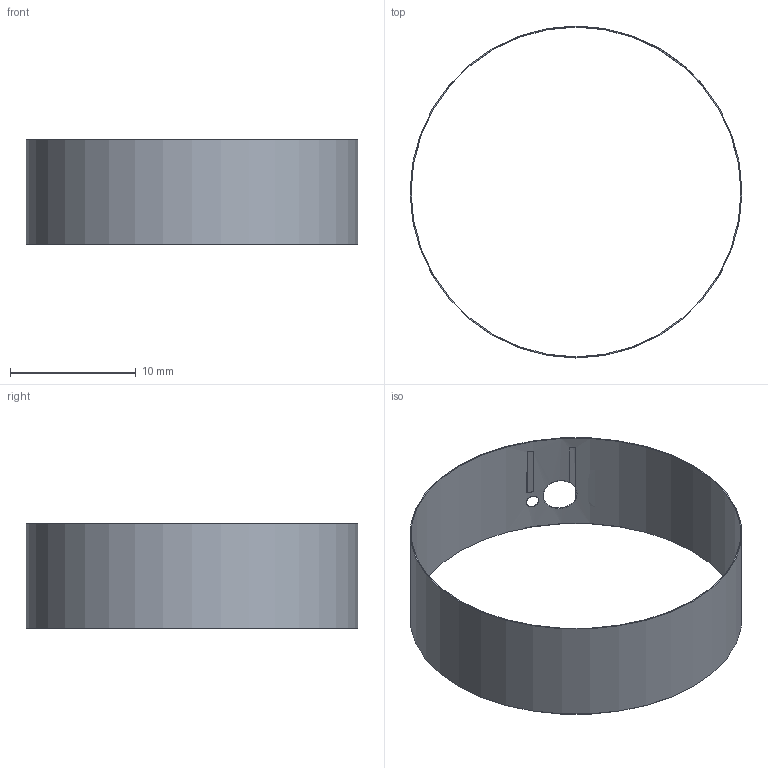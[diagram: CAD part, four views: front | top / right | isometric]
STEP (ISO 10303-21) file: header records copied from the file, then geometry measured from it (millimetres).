
FILE_DESCRIPTION(('FreeCAD Model'),'2;1');
FILE_NAME('Open CASCADE Shape Model','2026-10-23T21:15:57',('FreeCAD'),( 'FreeCAD'),'Open CASCADE STEP processor 7.8','FreeCAD','Unknown');
FILE_SCHEMA(('AUTOMOTIVE_DESIGN { 1 0 10303 214 1 1 1 1 }'));
Length unit declared in the file: millimetre
Products named in the file (1): Open CASCADE STEP translator 7.8 26
Bounding box: 26.34 x 26.34 x 8.3 mm (x, y, z)
Volume: 54.1 mm3; surface area: 1371.3 mm2
Topology: 1 solids, 1 shells, 15 faces, 40 edges, 28 vertices
Faces by surface type: plane 11, cylinder 4
Full cylindrical faces by diameter (mm): 1 x1, 2.7 x1, 26.18 x1, 26.34 x1
Entity records: 752 total; most frequent: CARTESIAN_POINT 355, ORIENTED_EDGE 80, DIRECTION 74, EDGE_CURVE 40, VERTEX_POINT 28, AXIS2_PLACEMENT_3D 27, FACE_BOUND 22, EDGE_LOOP 22
